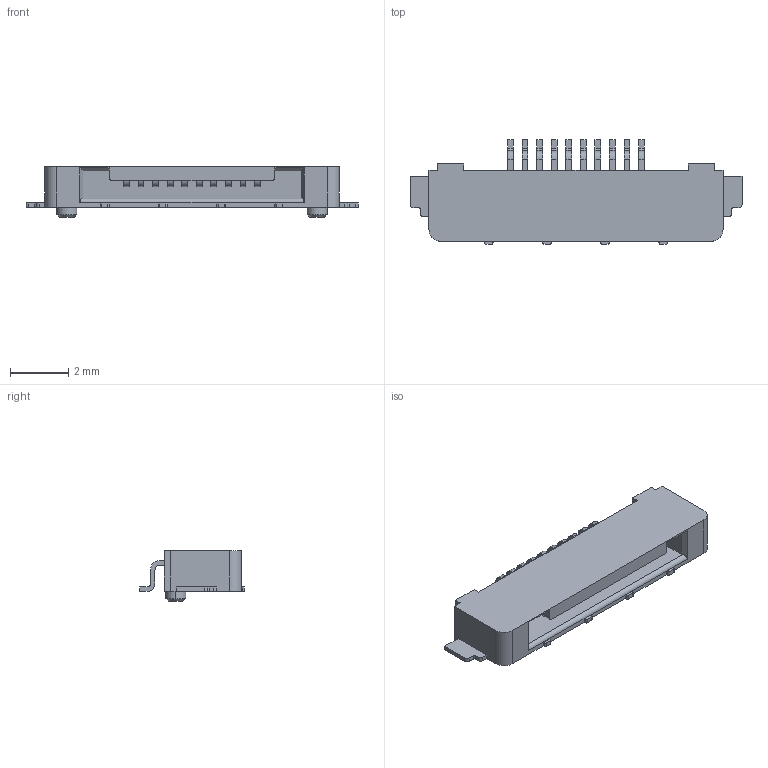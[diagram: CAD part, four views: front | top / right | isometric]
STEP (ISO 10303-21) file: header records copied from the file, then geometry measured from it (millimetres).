
FILE_DESCRIPTION(('Creo Elements/Direct Modeling STEP Export'),'2;1');
FILE_NAME('SSL01-10L3_ST.stp','2017-08-04T14:40:21',(''),(''),'Creo Elements/Direct Modeling STEP processor for AP214 (Solid Model)','Creo Elements/Direct Modeling 19.0F 14-Feb-2017 (C) Parametric Technology GmbH','');
FILE_SCHEMA(('AUTOMOTIVE_DESIGN { 1 0 10303 214 1 1 1 1 }'));
Length unit declared in the file: millimetre
Products named in the file (2): SSL01-10L3
Assembly tree (1 placements, depth 2):
  SSL01-10L3
    SSL01-10L3
Bounding box: 11.4 x 3.58 x 1.75 mm (x, y, z)
Volume: 27.7 mm3; surface area: 135.3 mm2
Topology: 1 solids, 1 shells, 294 faces, 866 edges, 577 vertices
Faces by surface type: plane 187, cylinder 103, cone 4
Entity records: 12091 total; most frequent: CARTESIAN_POINT 1744, ORIENTED_EDGE 1732, DIRECTION 1649, EDGE_CURVE 866, VECTOR 653, LINE 653, VERTEX_POINT 577, AXIS2_PLACEMENT_3D 498
